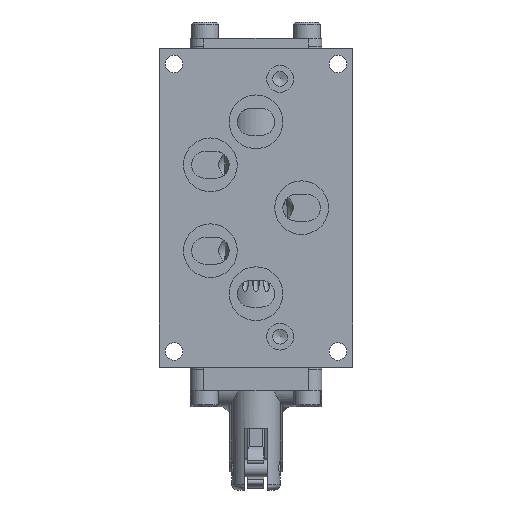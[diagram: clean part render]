
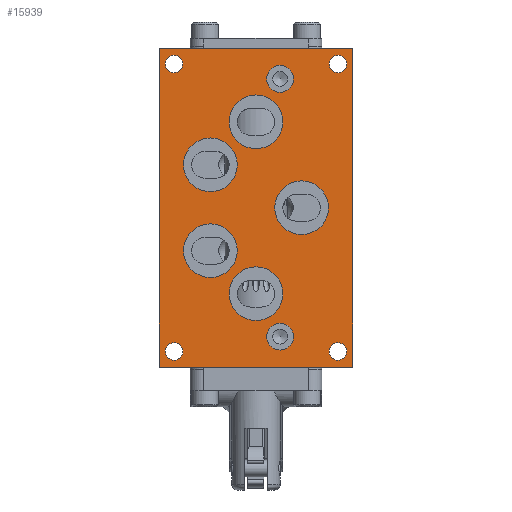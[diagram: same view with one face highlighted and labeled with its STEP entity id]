
A CAD part, front view. The second image highlights one B-rep face of the part: STEP entity #15939.
In plain terms, the highlighted planar face has unit normal (0, -1, 0).
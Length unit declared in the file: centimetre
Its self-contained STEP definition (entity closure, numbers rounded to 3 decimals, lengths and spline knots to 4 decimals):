
#1930=FACE_BOUND('',#3201,.T.);
#1931=FACE_BOUND('',#3202,.T.);
#1932=FACE_BOUND('',#3203,.T.);
#1933=FACE_BOUND('',#3204,.T.);
#1934=FACE_BOUND('',#3205,.T.);
#1935=FACE_BOUND('',#3206,.T.);
#1936=FACE_BOUND('',#3207,.T.);
#1937=FACE_BOUND('',#3208,.T.);
#1938=FACE_BOUND('',#3209,.T.);
#1939=FACE_BOUND('',#3210,.T.);
#1940=FACE_BOUND('',#3211,.T.);
#2201=FACE_OUTER_BOUND('',#3200,.T.);
#3200=EDGE_LOOP('',(#11660,#11661,#11662,#11663));
#3201=EDGE_LOOP('',(#11664));
#3202=EDGE_LOOP('',(#11665));
#3203=EDGE_LOOP('',(#11666));
#3204=EDGE_LOOP('',(#11667));
#3205=EDGE_LOOP('',(#11668));
#3206=EDGE_LOOP('',(#11669));
#3207=EDGE_LOOP('',(#11670));
#3208=EDGE_LOOP('',(#11671));
#3209=EDGE_LOOP('',(#11672));
#3210=EDGE_LOOP('',(#11673));
#3211=EDGE_LOOP('',(#11674));
#4278=CIRCLE('',#17089,0.3962);
#4282=CIRCLE('',#17097,0.3962);
#4284=CIRCLE('',#17102,0.7938);
#4286=CIRCLE('',#17106,0.7938);
#4288=CIRCLE('',#17110,0.7938);
#4290=CIRCLE('',#17114,0.7938);
#4292=CIRCLE('',#17118,0.7938);
#4295=CIRCLE('',#17123,0.258);
#4298=CIRCLE('',#17128,0.258);
#4301=CIRCLE('',#17133,0.258);
#4304=CIRCLE('',#17138,0.258);
#5051=LINE('',#23664,#6108);
#5065=LINE('',#23708,#6122);
#5192=LINE('',#24522,#6249);
#5193=LINE('',#24526,#6250);
#6108=VECTOR('',#18892,1.);
#6122=VECTOR('',#18924,1.);
#6249=VECTOR('',#19543,1.);
#6250=VECTOR('',#19550,1.);
#7191=VERTEX_POINT('',#23660);
#7193=VERTEX_POINT('',#23663);
#7212=VERTEX_POINT('',#23704);
#7214=VERTEX_POINT('',#23707);
#7362=VERTEX_POINT('',#24403);
#7367=VERTEX_POINT('',#24419);
#7369=VERTEX_POINT('',#24428);
#7371=VERTEX_POINT('',#24435);
#7373=VERTEX_POINT('',#24442);
#7375=VERTEX_POINT('',#24449);
#7377=VERTEX_POINT('',#24456);
#7381=VERTEX_POINT('',#24468);
#7385=VERTEX_POINT('',#24480);
#7389=VERTEX_POINT('',#24492);
#7393=VERTEX_POINT('',#24504);
#8707=EDGE_CURVE('',#7193,#7191,#5051,.T.);
#8728=EDGE_CURVE('',#7214,#7212,#5065,.T.);
#8946=EDGE_CURVE('',#7362,#7362,#4278,.T.);
#8953=EDGE_CURVE('',#7367,#7367,#4282,.T.);
#8957=EDGE_CURVE('',#7369,#7369,#4284,.T.);
#8960=EDGE_CURVE('',#7371,#7371,#4286,.T.);
#8963=EDGE_CURVE('',#7373,#7373,#4288,.T.);
#8966=EDGE_CURVE('',#7375,#7375,#4290,.T.);
#8969=EDGE_CURVE('',#7377,#7377,#4292,.T.);
#8976=EDGE_CURVE('',#7381,#7381,#4295,.T.);
#8982=EDGE_CURVE('',#7385,#7385,#4298,.T.);
#8988=EDGE_CURVE('',#7389,#7389,#4301,.T.);
#8994=EDGE_CURVE('',#7393,#7393,#4304,.T.);
#9003=EDGE_CURVE('',#7212,#7193,#5192,.T.);
#9004=EDGE_CURVE('',#7191,#7214,#5193,.T.);
#11660=ORIENTED_EDGE('',*,*,#8728,.T.);
#11661=ORIENTED_EDGE('',*,*,#9003,.T.);
#11662=ORIENTED_EDGE('',*,*,#8707,.T.);
#11663=ORIENTED_EDGE('',*,*,#9004,.T.);
#11664=ORIENTED_EDGE('',*,*,#8946,.T.);
#11665=ORIENTED_EDGE('',*,*,#8953,.T.);
#11666=ORIENTED_EDGE('',*,*,#8957,.T.);
#11667=ORIENTED_EDGE('',*,*,#8960,.T.);
#11668=ORIENTED_EDGE('',*,*,#8963,.T.);
#11669=ORIENTED_EDGE('',*,*,#8966,.T.);
#11670=ORIENTED_EDGE('',*,*,#8969,.T.);
#11671=ORIENTED_EDGE('',*,*,#8976,.T.);
#11672=ORIENTED_EDGE('',*,*,#8982,.T.);
#11673=ORIENTED_EDGE('',*,*,#8988,.T.);
#11674=ORIENTED_EDGE('',*,*,#8994,.T.);
#15456=PLANE('',#17149);
#15939=ADVANCED_FACE('',(#2201,#1930,#1931,#1932,#1933,#1934,#1935,#1936,
#1937,#1938,#1939,#1940),#15456,.T.);
#17089=AXIS2_PLACEMENT_3D('',#24404,#19399,#19400);
#17097=AXIS2_PLACEMENT_3D('',#24420,#19418,#19419);
#17102=AXIS2_PLACEMENT_3D('',#24429,#19430,#19431);
#17106=AXIS2_PLACEMENT_3D('',#24436,#19439,#19440);
#17110=AXIS2_PLACEMENT_3D('',#24443,#19448,#19449);
#17114=AXIS2_PLACEMENT_3D('',#24450,#19457,#19458);
#17118=AXIS2_PLACEMENT_3D('',#24457,#19466,#19467);
#17123=AXIS2_PLACEMENT_3D('',#24470,#19480,#19481);
#17128=AXIS2_PLACEMENT_3D('',#24482,#19493,#19494);
#17133=AXIS2_PLACEMENT_3D('',#24494,#19506,#19507);
#17138=AXIS2_PLACEMENT_3D('',#24506,#19519,#19520);
#17149=AXIS2_PLACEMENT_3D('',#24527,#19551,#19552);
#18892=DIRECTION('',(1.,0.,0.));
#18924=DIRECTION('',(-1.,0.,0.));
#19399=DIRECTION('center_axis',(0.,1.,0.));
#19400=DIRECTION('ref_axis',(1.,0.,0.));
#19418=DIRECTION('center_axis',(0.,1.,0.));
#19419=DIRECTION('ref_axis',(1.,0.,0.));
#19430=DIRECTION('center_axis',(0.,1.,0.));
#19431=DIRECTION('ref_axis',(1.,0.,0.));
#19439=DIRECTION('center_axis',(0.,1.,0.));
#19440=DIRECTION('ref_axis',(1.,0.,0.));
#19448=DIRECTION('center_axis',(0.,1.,0.));
#19449=DIRECTION('ref_axis',(1.,0.,0.));
#19457=DIRECTION('center_axis',(0.,1.,0.));
#19458=DIRECTION('ref_axis',(1.,0.,0.));
#19466=DIRECTION('center_axis',(0.,1.,0.));
#19467=DIRECTION('ref_axis',(1.,0.,0.));
#19480=DIRECTION('center_axis',(0.,1.,0.));
#19481=DIRECTION('ref_axis',(1.,0.,0.));
#19493=DIRECTION('center_axis',(0.,1.,0.));
#19494=DIRECTION('ref_axis',(1.,0.,0.));
#19506=DIRECTION('center_axis',(0.,1.,0.));
#19507=DIRECTION('ref_axis',(1.,0.,0.));
#19519=DIRECTION('center_axis',(0.,1.,0.));
#19520=DIRECTION('ref_axis',(1.,0.,0.));
#19543=DIRECTION('',(0.,0.,-1.));
#19550=DIRECTION('',(0.,0.,1.));
#19551=DIRECTION('center_axis',(0.,-1.,0.));
#19552=DIRECTION('ref_axis',(0.,0.,-1.));
#23660=CARTESIAN_POINT('',(2.8575,-1.6358,-4.7104));
#23663=CARTESIAN_POINT('',(-2.8575,-1.6358,-4.7104));
#23664=CARTESIAN_POINT('',(-2.8575,-1.6358,-4.7104));
#23704=CARTESIAN_POINT('',(-2.8575,-1.6358,4.7104));
#23707=CARTESIAN_POINT('',(2.8575,-1.6358,4.7104));
#23708=CARTESIAN_POINT('',(-2.8575,-1.6358,4.7104));
#24403=CARTESIAN_POINT('',(0.3175,-1.6358,-3.81));
#24404=CARTESIAN_POINT('Origin',(0.7137,-1.6358,-3.81));
#24419=CARTESIAN_POINT('',(0.3175,-1.6358,3.81));
#24420=CARTESIAN_POINT('Origin',(0.7137,-1.6358,3.81));
#24428=CARTESIAN_POINT('',(0.555,-1.6358,0.));
#24429=CARTESIAN_POINT('Origin',(1.3487,-1.6358,0.));
#24435=CARTESIAN_POINT('',(-0.7938,-1.6358,-2.54));
#24436=CARTESIAN_POINT('Origin',(0.,-1.6358,-2.54));
#24442=CARTESIAN_POINT('',(-0.7938,-1.6358,2.54));
#24443=CARTESIAN_POINT('Origin',(0.,-1.6358,2.54));
#24449=CARTESIAN_POINT('',(-2.1425,-1.6358,-1.27));
#24450=CARTESIAN_POINT('Origin',(-1.3487,-1.6358,-1.27));
#24456=CARTESIAN_POINT('',(-2.1425,-1.6358,1.27));
#24457=CARTESIAN_POINT('Origin',(-1.3487,-1.6358,1.27));
#24468=CARTESIAN_POINT('',(-2.6786,-1.6358,4.2469));
#24470=CARTESIAN_POINT('Origin',(-2.4206,-1.6358,4.2469));
#24480=CARTESIAN_POINT('',(2.1627,-1.6358,4.2469));
#24482=CARTESIAN_POINT('Origin',(2.4206,-1.6358,4.2469));
#24492=CARTESIAN_POINT('',(2.1627,-1.6358,-4.2469));
#24494=CARTESIAN_POINT('Origin',(2.4206,-1.6358,-4.2469));
#24504=CARTESIAN_POINT('',(-2.6786,-1.6358,-4.2469));
#24506=CARTESIAN_POINT('Origin',(-2.4206,-1.6358,-4.2469));
#24522=CARTESIAN_POINT('',(-2.8575,-1.6358,0.));
#24526=CARTESIAN_POINT('',(2.8575,-1.6358,0.));
#24527=CARTESIAN_POINT('Origin',(2.8575,-1.6358,0.));
